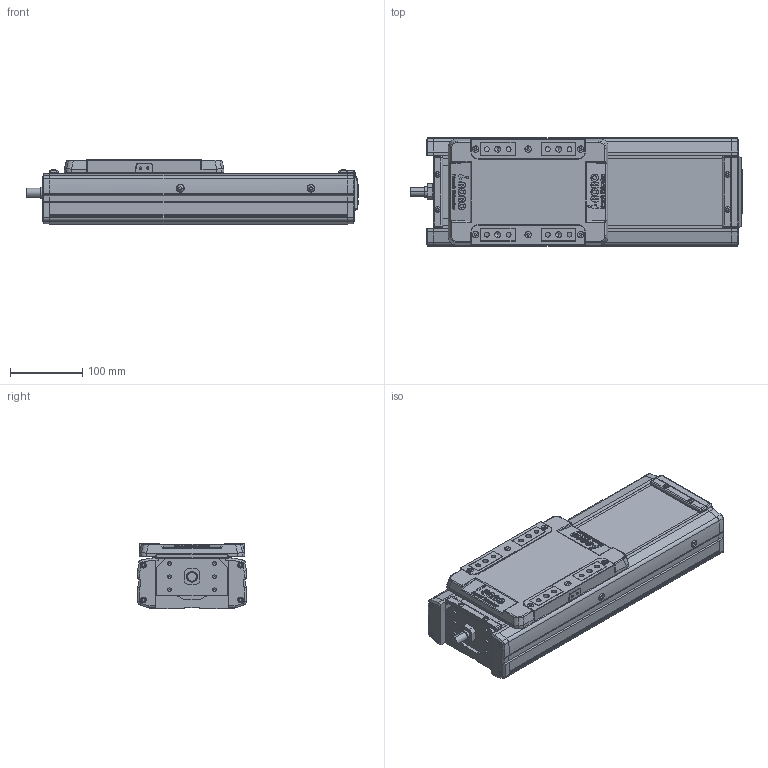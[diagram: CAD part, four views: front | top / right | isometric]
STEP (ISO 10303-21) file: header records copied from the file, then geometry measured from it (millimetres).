
FILE_DESCRIPTION(('STEP AP214'),'1');
FILE_NAME('Z:/Web/3D/SAN150/2013.04 (STP.)/SAN150ㅁㅁ-150.stp','2013-05-08T02:36:29',(' '),(' '),'Spatial InterOp 3D',' ',' ');
FILE_SCHEMA(('automotive_design'));
Length unit declared in the file: millimetre
Products named in the file (35): SLBL-SAN150; SLCV-SAN150; FHCS M4.0 x 8.0; BHCS M4.0 x 10.0; SFX-SAN150; RRCV-SAN150; FRBL-SAN150; Spacer; RN15; FRCV-SAN150; Screw 20; BASE-SAN150-000L ; SUS COVER; 스크루 : Round - M5.0 x 6.0
Bounding box: 458 x 150 x 90 mm (x, y, z)
Volume: 2994903.5 mm3; surface area: 566701.3 mm2
Topology: 35 solids, 35 shells, 1923 faces, 4950 edges, 3167 vertices
Faces by surface type: plane 973, cylinder 667, cone 202, sphere 48, bspline 21, torus 12
Entity records: 76069 total; most frequent: CARTESIAN_POINT 12217, DIRECTION 10442, ORIENTED_EDGE 9724, EDGE_CURVE 4862, AXIS2_PLACEMENT_3D 3711, VERTEX_POINT 3167, LINE 3020, VECTOR 3020
